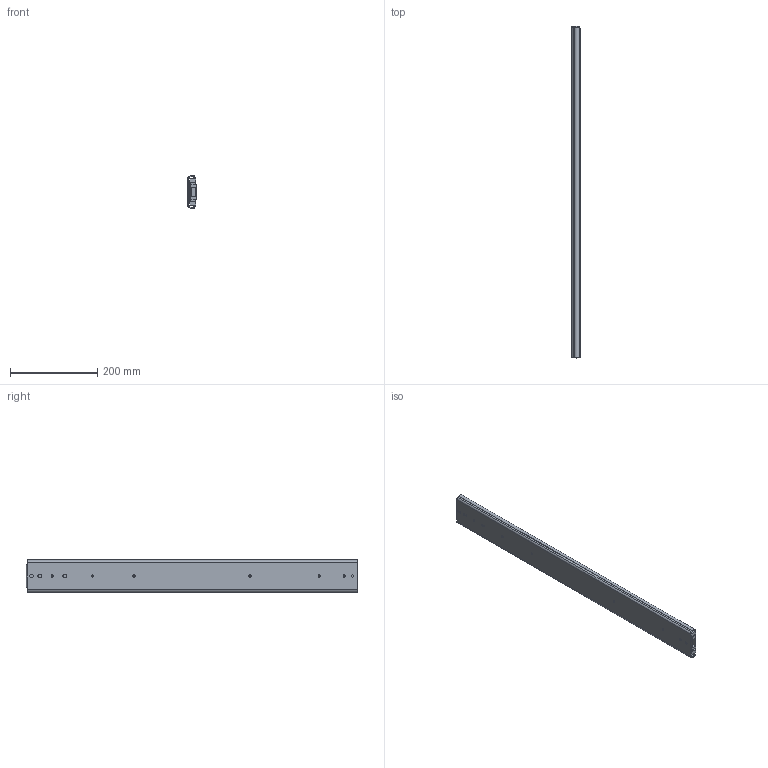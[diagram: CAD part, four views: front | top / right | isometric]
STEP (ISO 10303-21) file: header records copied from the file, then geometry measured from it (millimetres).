
FILE_DESCRIPTION(/* description */ ('Unknown'),/* implementation_level */ '2;1');
FILE_NAME(/* name */ '76J01-30 close',/* time_stamp */ '2024-07-26T15:58:42+08:00',/* author */ ('Unknown'),/* organization */ ('Unknown'),/* preprocessor_version */ 'ST-DEVELOPER v18.104',/* originating_system */ 'Solid Edge',/* authorisation */ 'Unknown');
FILE_SCHEMA (('AUTOMOTIVE_DESIGN {1 0 10303 214 3 1 1}'));
Length unit declared in the file: millimetre
Products named in the file (4): 76J01-30 close; 76J01 30 inch 內; 76J01 30 ¦TionRefs; 76J01 30 吋
Assembly tree (3 placements, depth 2):
  76J01-30 close
    76J01 30 inch 內
    76J01 30 ¦TionRefs
    76J01 30 吋
Bounding box: 19.3 x 762 x 76.76 mm (x, y, z)
Volume: 597130.3 mm3; surface area: 372196.3 mm2
Topology: 3 solids, 3 shells, 192 faces, 591 edges, 399 vertices
Faces by surface type: plane 104, cylinder 88
Full cylindrical faces by diameter (mm): 5.2 x13, 7.1 x2
Entity records: 7028 total; most frequent: CARTESIAN_POINT 1144, DIRECTION 1129, ORIENTED_EDGE 1122, EDGE_CURVE 561, VERTEX_POINT 384, LINE 383, VECTOR 383, AXIS2_PLACEMENT_3D 373
